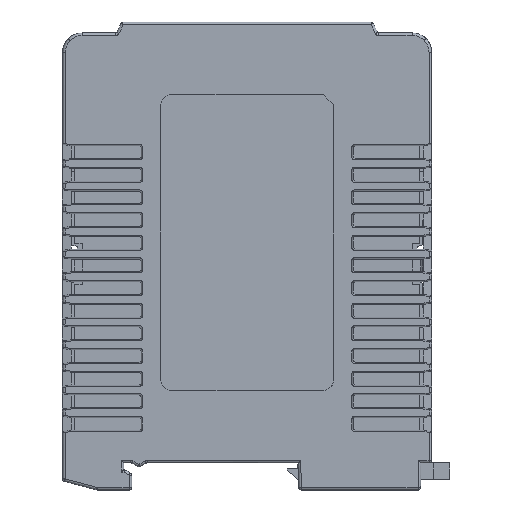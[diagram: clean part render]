
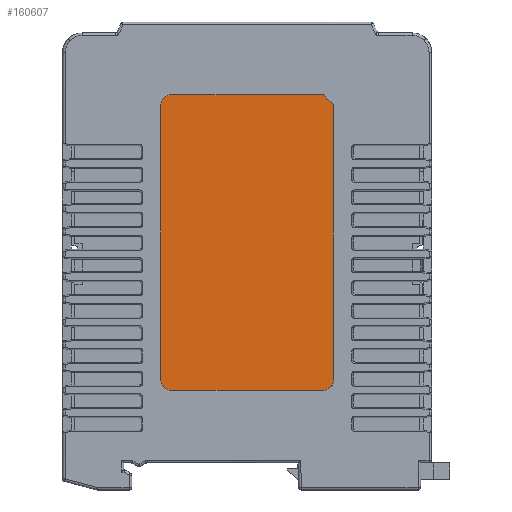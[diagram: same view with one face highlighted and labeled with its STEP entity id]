
A CAD part, front view. The second image highlights one B-rep face of the part: STEP entity #160607.
In plain terms, the highlighted planar face has unit normal (0, -1, 0) as drawn and (0, 0, 1) by its records, which use the part's own axes.
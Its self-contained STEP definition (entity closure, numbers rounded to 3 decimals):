
#133983=DIRECTION('',(0.707,0.707,0.));
#133984=VECTOR('',#133983,2.828);
#133985=CARTESIAN_POINT('',(28.,-17.5,1.4));
#133986=LINE('',#133985,#133984);
#133987=DIRECTION('',(1.,0.,0.));
#133988=VECTOR('',#133987,56.);
#133989=CARTESIAN_POINT('',(-28.,-17.5,1.4));
#133990=LINE('',#133989,#133988);
#133991=CARTESIAN_POINT('',(-28.,-15.5,1.4));
#133992=DIRECTION('',(0.,0.,1.));
#133993=DIRECTION('',(-1.,0.,0.));
#133994=AXIS2_PLACEMENT_3D('',#133991,#133992,#133993);
#133996=DIRECTION('',(0.,-1.,0.));
#133997=VECTOR('',#133996,31.);
#133998=CARTESIAN_POINT('',(-30.,15.5,1.4));
#133999=LINE('',#133998,#133997);
#134000=CARTESIAN_POINT('',(-28.,15.5,1.4));
#134001=DIRECTION('',(0.,0.,1.));
#134002=DIRECTION('',(0.,1.,0.));
#134003=AXIS2_PLACEMENT_3D('',#134000,#134001,#134002);
#134005=DIRECTION('',(-1.,0.,0.));
#134006=VECTOR('',#134005,56.);
#134007=CARTESIAN_POINT('',(28.,17.5,1.4));
#134008=LINE('',#134007,#134006);
#134009=CARTESIAN_POINT('',(28.,15.5,1.4));
#134010=DIRECTION('',(0.,0.,1.));
#134011=DIRECTION('',(1.,0.,0.));
#134012=AXIS2_PLACEMENT_3D('',#134009,#134010,#134011);
#134014=DIRECTION('',(0.,1.,0.));
#134015=VECTOR('',#134014,31.);
#134016=CARTESIAN_POINT('',(30.,-15.5,1.4));
#134017=LINE('',#134016,#134015);
#150881=CARTESIAN_POINT('',(30.,15.5,1.4));
#150882=CARTESIAN_POINT('',(28.,17.5,1.4));
#150883=VERTEX_POINT('',#150881);
#150884=VERTEX_POINT('',#150882);
#150889=CARTESIAN_POINT('',(-30.,-15.5,1.4));
#150890=CARTESIAN_POINT('',(-28.,-17.5,1.4));
#150891=VERTEX_POINT('',#150889);
#150892=VERTEX_POINT('',#150890);
#151519=CARTESIAN_POINT('',(-30.,15.5,1.4));
#151520=VERTEX_POINT('',#151519);
#151521=CARTESIAN_POINT('',(-28.,17.5,1.4));
#151522=VERTEX_POINT('',#151521);
#151524=CARTESIAN_POINT('',(30.,-15.5,1.4));
#151526=VERTEX_POINT('',#151524);
#151528=CARTESIAN_POINT('',(28.,-17.5,1.4));
#151530=VERTEX_POINT('',#151528);
#160586=CARTESIAN_POINT('',(0.,0.,1.4));
#160587=DIRECTION('',(0.,0.,1.));
#160588=DIRECTION('',(1.,0.,0.));
#160589=AXIS2_PLACEMENT_3D('',#160586,#160587,#160588);
#160590=PLANE('',#160589);
#160591=ORIENTED_EDGE('',*,*,#160579,.F.);
#160592=ORIENTED_EDGE('',*,*,#160567,.F.);
#160594=ORIENTED_EDGE('',*,*,#160593,.F.);
#160596=ORIENTED_EDGE('',*,*,#160595,.F.);
#160598=ORIENTED_EDGE('',*,*,#160597,.F.);
#160600=ORIENTED_EDGE('',*,*,#160599,.F.);
#160602=ORIENTED_EDGE('',*,*,#160601,.F.);
#160604=ORIENTED_EDGE('',*,*,#160603,.F.);
#160605=EDGE_LOOP('',(#160591,#160592,#160594,#160596,#160598,#160600,#160602,
#160604));
#160606=FACE_OUTER_BOUND('',#160605,.F.);
#133995=CIRCLE('',#133994,2.);
#134004=CIRCLE('',#134003,2.);
#134013=CIRCLE('',#134012,2.);
#160567=EDGE_CURVE('',#150892,#151530,#133990,.T.);
#160579=EDGE_CURVE('',#151530,#151526,#133986,.T.);
#160593=EDGE_CURVE('',#150891,#150892,#133995,.T.);
#160595=EDGE_CURVE('',#151520,#150891,#133999,.T.);
#160597=EDGE_CURVE('',#151522,#151520,#134004,.T.);
#160599=EDGE_CURVE('',#150884,#151522,#134008,.T.);
#160601=EDGE_CURVE('',#150883,#150884,#134013,.T.);
#160603=EDGE_CURVE('',#151526,#150883,#134017,.T.);
#160607=ADVANCED_FACE('',(#160606),#160590,.T.);
